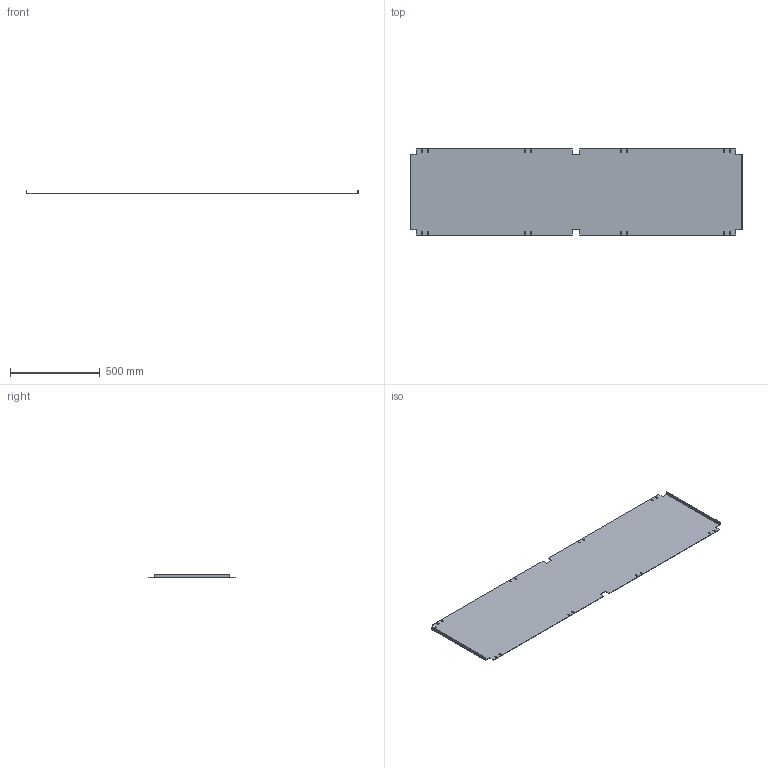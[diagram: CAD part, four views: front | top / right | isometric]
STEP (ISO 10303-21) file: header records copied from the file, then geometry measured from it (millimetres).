
FILE_DESCRIPTION(('Open CASCADE Model'),'2;1');
FILE_NAME('Open CASCADE Shape Model','2025-02-13T17:36:49',('Author'),( 'Open CASCADE'),'Open CASCADE STEP processor 7.8','Open CASCADE 7.8' ,'Unknown');
FILE_SCHEMA(('AUTOMOTIVE_DESIGN { 1 0 10303 214 1 1 1 1 }'));
Length unit declared in the file: millimetre
Products named in the file (1): Solid1
Bounding box: 1850 x 480 x 20 mm (x, y, z)
Volume: 2235083.2 mm3; surface area: 1801623.2 mm2
Topology: 1 solids, 1 shells, 102 faces, 284 edges, 184 vertices
Faces by surface type: plane 66, cylinder 36
Entity records: 3326 total; most frequent: CARTESIAN_POINT 571, ORIENTED_EDGE 568, DIRECTION 562, EDGE_CURVE 284, LINE 212, VECTOR 212, VERTEX_POINT 184, AXIS2_PLACEMENT_3D 175
